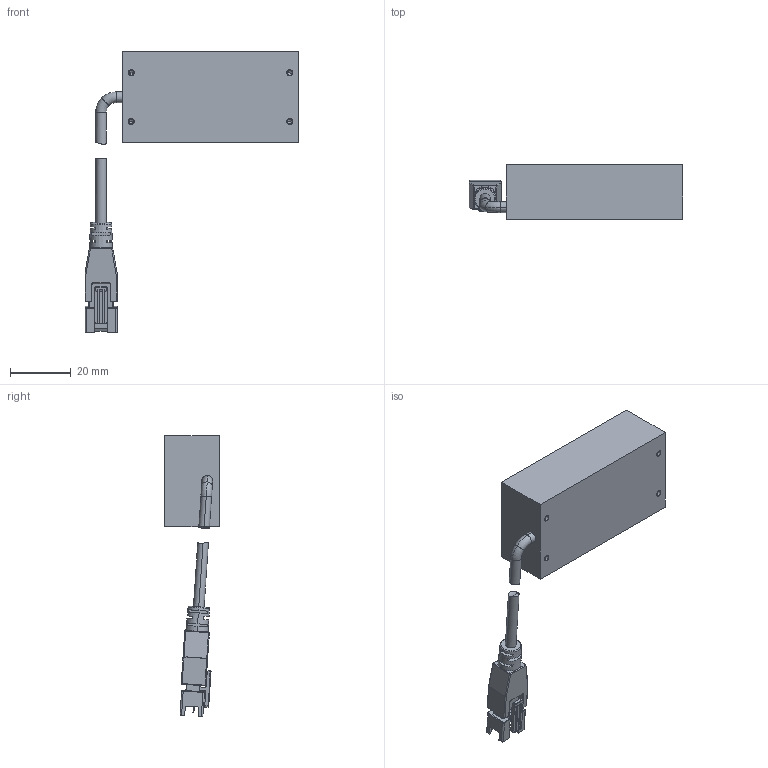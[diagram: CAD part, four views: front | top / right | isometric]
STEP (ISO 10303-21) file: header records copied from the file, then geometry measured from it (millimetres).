
FILE_DESCRIPTION((''),'2;1');
FILE_NAME('MV-LBSS-48-28_ASM','2019-09-19T',('Administrator'),(''),'PRO/ENGINEER BY PARAMETRIC TECHNOLOGY CORPORATION, 2010100','PRO/ENGINEER BY PARAMETRIC TECHNOLOGY CORPORATION, 2010100','');
FILE_SCHEMA(('CONFIG_CONTROL_DESIGN'));
Length unit declared in the file: millimetre
Products named in the file (5): WAIKE_3; LINE_TOU_74; BODY_12_5; ASSY_ASM_20_ASM; MV-LBSS-48-28_ASM
Assembly tree (4 placements, depth 3):
  MV-LBSS-48-28_ASM
    WAIKE_3
    ASSY_ASM_20_ASM
      LINE_TOU_74
      BODY_12_5
Bounding box: 70.19 x 18 x 92.18 mm (x, y, z)
Volume: 33046.1 mm3; surface area: 9434.3 mm2
Topology: 3 solids, 7 shells, 264 faces, 676 edges, 421 vertices
Faces by surface type: plane 143, cylinder 83, torus 12, cone 10, bspline 8, sphere 8
Entity records: 8245 total; most frequent: CARTESIAN_POINT 1759, DIRECTION 1352, ORIENTED_EDGE 1304, EDGE_CURVE 660, AXIS2_PLACEMENT_3D 469, VERTEX_POINT 421, VECTOR 414, LINE 414
